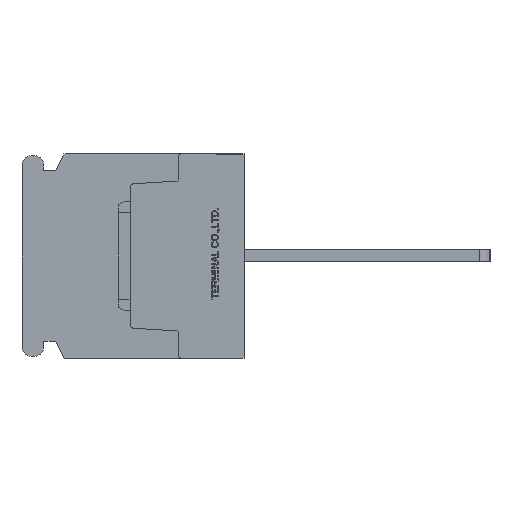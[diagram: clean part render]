
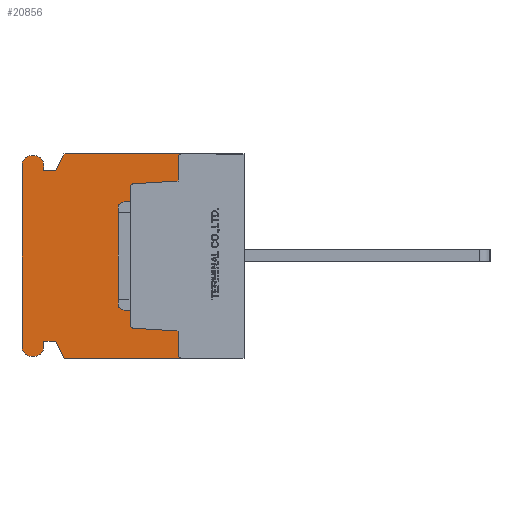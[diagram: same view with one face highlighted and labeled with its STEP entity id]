
A CAD part, left-side view. The second image highlights one B-rep face of the part: STEP entity #20856.
In plain terms, the highlighted planar face has unit normal (-1, 0, 0).
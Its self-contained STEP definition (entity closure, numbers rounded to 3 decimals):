
#1241=CIRCLE('',#22313,0.3);
#1243=CIRCLE('',#22317,0.3);
#1245=CIRCLE('',#22322,0.3);
#1247=CIRCLE('',#22325,0.3);
#1256=CIRCLE('',#22482,0.75);
#1257=CIRCLE('',#22483,0.75);
#1258=CIRCLE('',#22484,0.75);
#1259=CIRCLE('',#22485,0.75);
#2409=VERTEX_POINT('',#31186);
#2410=VERTEX_POINT('',#31188);
#2442=VERTEX_POINT('',#31259);
#2443=VERTEX_POINT('',#31261);
#2866=VERTEX_POINT('',#32764);
#2867=VERTEX_POINT('',#32765);
#2870=VERTEX_POINT('',#32773);
#2884=VERTEX_POINT('',#32803);
#2886=VERTEX_POINT('',#32809);
#2888=VERTEX_POINT('',#32815);
#2890=VERTEX_POINT('',#32821);
#2892=VERTEX_POINT('',#32830);
#3239=VERTEX_POINT('',#34372);
#3240=VERTEX_POINT('',#34374);
#3241=VERTEX_POINT('',#34376);
#3242=VERTEX_POINT('',#34378);
#3243=VERTEX_POINT('',#34380);
#3244=VERTEX_POINT('',#34382);
#3245=VERTEX_POINT('',#34384);
#3246=VERTEX_POINT('',#34386);
#3247=VERTEX_POINT('',#34388);
#3248=VERTEX_POINT('',#34390);
#3249=VERTEX_POINT('',#34392);
#3250=VERTEX_POINT('',#34394);
#4540=VECTOR('',#25033,1.);
#4577=VECTOR('',#25074,1.);
#5004=VECTOR('',#26284,1.);
#5021=VECTOR('',#26308,1.);
#5025=VECTOR('',#26319,1.);
#5028=VECTOR('',#26323,1.);
#5032=VECTOR('',#26340,1.);
#5445=VECTOR('',#26918,1.);
#5446=VECTOR('',#26919,1.);
#5447=VECTOR('',#26920,1.);
#5448=VECTOR('',#26923,1.);
#5449=VECTOR('',#26926,1.);
#5450=VECTOR('',#26929,1.);
#5451=VECTOR('',#26932,1.);
#5452=VECTOR('',#26933,1.);
#5453=VECTOR('',#26934,1.);
#6730=LINE('',#31187,#4540);
#6767=LINE('',#31260,#4577);
#7194=LINE('',#32763,#5004);
#7211=LINE('',#32802,#5021);
#7215=LINE('',#32814,#5025);
#7218=LINE('',#32820,#5028);
#7222=LINE('',#32835,#5032);
#7635=LINE('',#34371,#5445);
#7636=LINE('',#34373,#5446);
#7637=LINE('',#34375,#5447);
#7638=LINE('',#34379,#5448);
#7639=LINE('',#34383,#5449);
#7640=LINE('',#34387,#5450);
#7641=LINE('',#34391,#5451);
#7642=LINE('',#34393,#5452);
#7643=LINE('',#34395,#5453);
#9389=EDGE_CURVE('',#2409,#2410,#6730,.T.);
#9427=EDGE_CURVE('',#2442,#2443,#6767,.T.);
#10095=EDGE_CURVE('',#2866,#2867,#7194,.T.);
#10099=EDGE_CURVE('',#2870,#2866,#1241,.T.);
#10114=EDGE_CURVE('',#2884,#2870,#7211,.T.);
#10117=EDGE_CURVE('',#2886,#2884,#1243,.T.);
#10120=EDGE_CURVE('',#2888,#2886,#7215,.T.);
#10123=EDGE_CURVE('',#2890,#2888,#7218,.T.);
#10126=EDGE_CURVE('',#2410,#2890,#1245,.T.);
#10128=EDGE_CURVE('',#2892,#2442,#1247,.T.);
#10131=EDGE_CURVE('',#2867,#2892,#7222,.T.);
#10655=EDGE_CURVE('',#3239,#2409,#7635,.T.);
#10656=EDGE_CURVE('',#3240,#3239,#7636,.T.);
#10657=EDGE_CURVE('',#3241,#3240,#7637,.T.);
#10658=EDGE_CURVE('',#3242,#3241,#1256,.T.);
#10659=EDGE_CURVE('',#3243,#3242,#7638,.T.);
#10660=EDGE_CURVE('',#3244,#3243,#1257,.T.);
#10661=EDGE_CURVE('',#3245,#3244,#7639,.T.);
#10662=EDGE_CURVE('',#3246,#3245,#1258,.T.);
#10663=EDGE_CURVE('',#3247,#3246,#7640,.T.);
#10664=EDGE_CURVE('',#3248,#3247,#1259,.T.);
#10665=EDGE_CURVE('',#3249,#3248,#7641,.T.);
#10666=EDGE_CURVE('',#3250,#3249,#7642,.T.);
#10667=EDGE_CURVE('',#2443,#3250,#7643,.T.);
#16599=ORIENTED_EDGE('',*,*,#10126,.F.);
#16600=ORIENTED_EDGE('',*,*,#9389,.F.);
#16601=ORIENTED_EDGE('',*,*,#10655,.F.);
#16602=ORIENTED_EDGE('',*,*,#10656,.F.);
#16603=ORIENTED_EDGE('',*,*,#10657,.F.);
#16604=ORIENTED_EDGE('',*,*,#10658,.F.);
#16605=ORIENTED_EDGE('',*,*,#10659,.F.);
#16606=ORIENTED_EDGE('',*,*,#10660,.F.);
#16607=ORIENTED_EDGE('',*,*,#10661,.F.);
#16608=ORIENTED_EDGE('',*,*,#10662,.F.);
#16609=ORIENTED_EDGE('',*,*,#10663,.F.);
#16610=ORIENTED_EDGE('',*,*,#10664,.F.);
#16611=ORIENTED_EDGE('',*,*,#10665,.F.);
#16612=ORIENTED_EDGE('',*,*,#10666,.F.);
#16613=ORIENTED_EDGE('',*,*,#10667,.F.);
#16614=ORIENTED_EDGE('',*,*,#9427,.F.);
#16615=ORIENTED_EDGE('',*,*,#10128,.F.);
#16616=ORIENTED_EDGE('',*,*,#10131,.F.);
#16617=ORIENTED_EDGE('',*,*,#10095,.F.);
#16618=ORIENTED_EDGE('',*,*,#10099,.F.);
#16619=ORIENTED_EDGE('',*,*,#10114,.F.);
#16620=ORIENTED_EDGE('',*,*,#10117,.F.);
#16621=ORIENTED_EDGE('',*,*,#10120,.F.);
#16622=ORIENTED_EDGE('',*,*,#10123,.F.);
#18312=EDGE_LOOP('',(#16599,#16600,#16601,#16602,#16603,#16604,#16605,#16606,
#16607,#16608,#16609,#16610,#16611,#16612,#16613,#16614,#16615,#16616,#16617,
#16618,#16619,#16620,#16621,#16622));
#19650=FACE_BOUND('',#18312,.T.);
#20856=ADVANCED_FACE('',(#19650),#35565,.F.);
#22313=AXIS2_PLACEMENT_3D('',#32772,#26290,#26291);
#22317=AXIS2_PLACEMENT_3D('',#32808,#26313,#26314);
#22322=AXIS2_PLACEMENT_3D('',#32826,#26328,#26329);
#22325=AXIS2_PLACEMENT_3D('',#32829,#26334,#26335);
#22481=AXIS2_PLACEMENT_3D('',#34370,#26917,$);
#22482=AXIS2_PLACEMENT_3D('',#34377,#26921,#26922);
#22483=AXIS2_PLACEMENT_3D('',#34381,#26924,#26925);
#22484=AXIS2_PLACEMENT_3D('',#34385,#26927,#26928);
#22485=AXIS2_PLACEMENT_3D('',#34389,#26930,#26931);
#25033=DIRECTION('',(0.,-1.,0.));
#25074=DIRECTION('',(0.,1.,0.));
#26284=DIRECTION('',(0.,-0.998,-0.062));
#26290=DIRECTION('',(-1.,0.,0.));
#26291=DIRECTION('',(0.,0.,-0.3));
#26308=DIRECTION('',(0.,0.,-1.));
#26313=DIRECTION('',(-1.,0.,0.));
#26314=DIRECTION('',(0.,0.,-0.3));
#26319=DIRECTION('',(0.,0.998,-0.062));
#26323=DIRECTION('',(0.,0.,-1.));
#26328=DIRECTION('',(-1.,0.,0.));
#26329=DIRECTION('',(0.,0.,-0.3));
#26334=DIRECTION('',(-1.,0.,0.));
#26335=DIRECTION('',(0.,0.,-0.3));
#26340=DIRECTION('',(0.,0.,-1.));
#26917=DIRECTION('',(1.,0.,0.));
#26918=DIRECTION('',(0.,-0.447,0.894));
#26919=DIRECTION('',(0.,-1.,0.));
#26920=DIRECTION('',(0.,0.,-1.));
#26921=DIRECTION('',(1.,0.,0.));
#26922=DIRECTION('',(0.,0.,-0.75));
#26923=DIRECTION('',(0.,-1.,0.));
#26924=DIRECTION('',(1.,0.,0.));
#26925=DIRECTION('',(0.,0.,-0.75));
#26926=DIRECTION('',(0.,0.,1.));
#26927=DIRECTION('',(1.,0.,0.));
#26928=DIRECTION('',(0.,0.,-0.75));
#26929=DIRECTION('',(0.,1.,0.));
#26930=DIRECTION('',(1.,0.,0.));
#26931=DIRECTION('',(0.,0.,-0.75));
#26932=DIRECTION('',(0.,0.,-1.));
#26933=DIRECTION('',(0.,1.,0.));
#26934=DIRECTION('',(0.,0.447,0.894));
#31186=CARTESIAN_POINT('',(0.,15.,8.5));
#31187=CARTESIAN_POINT('',(0.,15.,8.5));
#31188=CARTESIAN_POINT('',(0.,5.2,8.5));
#31259=CARTESIAN_POINT('',(0.,5.2,-8.5));
#31260=CARTESIAN_POINT('',(0.,0.,-8.5));
#31261=CARTESIAN_POINT('',(0.,15.,-8.5));
#32763=CARTESIAN_POINT('',(0.,9.219,-6.018));
#32764=CARTESIAN_POINT('',(0.,9.219,-6.018));
#32765=CARTESIAN_POINT('',(0.,5.5,-6.25));
#32772=CARTESIAN_POINT('',(0.,9.2,-5.718));
#32773=CARTESIAN_POINT('',(0.,9.5,-5.718));
#32802=CARTESIAN_POINT('',(0.,9.5,5.718));
#32803=CARTESIAN_POINT('',(0.,9.5,5.718));
#32808=CARTESIAN_POINT('',(0.,9.2,5.718));
#32809=CARTESIAN_POINT('',(0.,9.219,6.018));
#32814=CARTESIAN_POINT('',(0.,5.5,6.25));
#32815=CARTESIAN_POINT('',(0.,5.5,6.25));
#32820=CARTESIAN_POINT('',(0.,5.5,8.2));
#32821=CARTESIAN_POINT('',(0.,5.5,8.2));
#32826=CARTESIAN_POINT('',(0.,5.2,8.2));
#32829=CARTESIAN_POINT('',(0.,5.2,-8.2));
#32830=CARTESIAN_POINT('',(0.,5.5,-8.2));
#32835=CARTESIAN_POINT('',(0.,5.5,-6.25));
#34370=CARTESIAN_POINT('',(0.,9.463,0.));
#34371=CARTESIAN_POINT('',(0.,15.7,7.1));
#34372=CARTESIAN_POINT('',(0.,15.7,7.1));
#34373=CARTESIAN_POINT('',(0.,16.7,7.1));
#34374=CARTESIAN_POINT('',(0.,16.7,7.1));
#34375=CARTESIAN_POINT('',(0.,16.7,7.6));
#34376=CARTESIAN_POINT('',(0.,16.7,7.6));
#34377=CARTESIAN_POINT('',(0.,17.45,7.6));
#34378=CARTESIAN_POINT('',(0.,17.45,8.35));
#34379=CARTESIAN_POINT('',(0.,17.75,8.35));
#34380=CARTESIAN_POINT('',(0.,17.75,8.35));
#34381=CARTESIAN_POINT('',(0.,17.75,7.6));
#34382=CARTESIAN_POINT('',(0.,18.5,7.6));
#34383=CARTESIAN_POINT('',(0.,18.5,-7.6));
#34384=CARTESIAN_POINT('',(0.,18.5,-7.6));
#34385=CARTESIAN_POINT('',(0.,17.75,-7.6));
#34386=CARTESIAN_POINT('',(0.,17.75,-8.35));
#34387=CARTESIAN_POINT('',(0.,17.45,-8.35));
#34388=CARTESIAN_POINT('',(0.,17.45,-8.35));
#34389=CARTESIAN_POINT('',(0.,17.45,-7.6));
#34390=CARTESIAN_POINT('',(0.,16.7,-7.6));
#34391=CARTESIAN_POINT('',(0.,16.7,-7.1));
#34392=CARTESIAN_POINT('',(0.,16.7,-7.1));
#34393=CARTESIAN_POINT('',(0.,15.7,-7.1));
#34394=CARTESIAN_POINT('',(0.,15.7,-7.1));
#34395=CARTESIAN_POINT('',(0.,15.,-8.5));
#35565=PLANE('',#22481);
